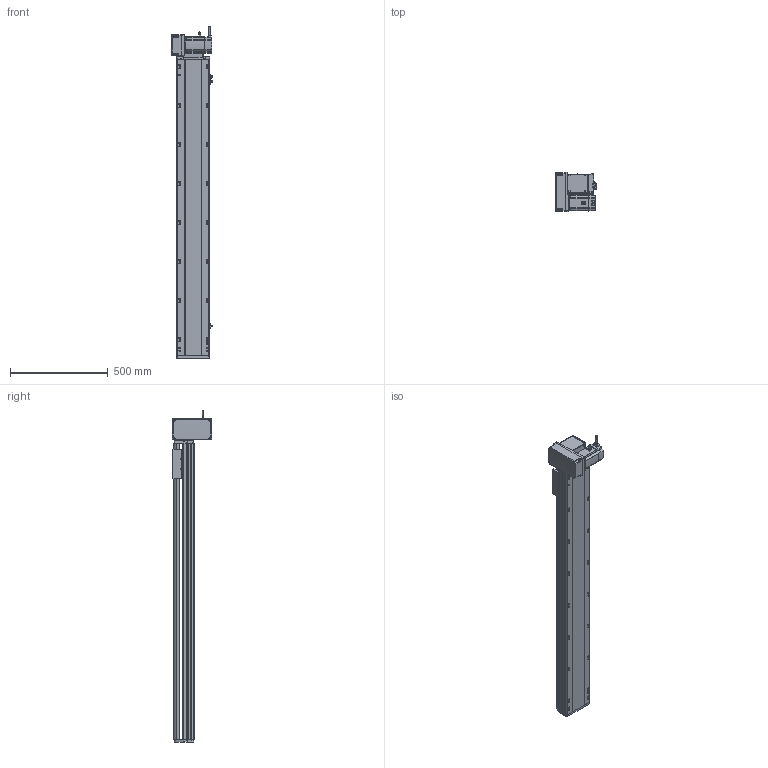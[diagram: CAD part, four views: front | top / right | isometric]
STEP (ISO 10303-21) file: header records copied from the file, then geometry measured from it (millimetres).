
FILE_DESCRIPTION (( 'STEP AP214' ), '1' );
FILE_NAME ('RTB17S-XX-1250-LM-M75-C4.STEP', '2025-12-12T00:40:03', ( '' ), ( '' ), 'SwSTEP 2.0', 'SolidWorks 2018', '' );
FILE_SCHEMA (( 'AUTOMOTIVE_DESIGN' ));
Length unit declared in the file: millimetre
Products named in the file (15): RTB22S-GY-005P^RTB17S-LM-々湍釱蚾饜-750W_RTB17S-XX-XX-LM-M75-C4; RTB22S-GY-008-M75--萇儂啣^RTB17S-LM-々湍釱蚾饜-750W_RTB17S-XX-XX-LM-M75-C4; RTB17S-L-014-T20-P75--々湍釱^RTB17S-LM-々湍釱蚾饜-750W_RTB17S-XX-XX-LM-M75-C4; RTB17S-L-001-耜醱啣^RTB17S-XX-XX-LM-M75-C4; RTB17S-L-007奻裔^RTB17S-XX-XX-LM-M75-C4; EE672^RTB17S-XX-XX-LM-M75-C4; RTB17S-XX-1250-LM-M75-C4; RTB17S-賑釱^RTB17S-XX-XX-LM-M75-C4; RTB17-R-011菁釱^RTB17S-XX-XX-LM-M75-C4; 750W萇儂^RTB17S-XX-XX-LM-M75-C4; RTB22S-GY-018P^RTB17S-LM-々湍釱蚾饜-750W_RTB17S-XX-XX-LM-M75-C4; RTB17S-LM-々湍釱蚾饜-750W^RTB17S-XX-XX-LM-M75-C4; RTH13-BL-012覜茼え俋离^RTB17S-賑釱_RTB17S-XX-XX-LM-M75-C4; RTB17S-L-004-賑釱^RTB17S-賑釱_RTB17S-XX-XX-LM-M75-C4; RTB22S-GY-017P^RTB17S-LM-々湍釱蚾饜-750W_RTB17S-XX-XX-LM-M75-C4
Assembly tree (17 placements, depth 3):
  RTB17S-XX-1250-LM-M75-C4
    RTB17-R-011菁釱^RTB17S-XX-XX-LM-M75-C4
    EE672^RTB17S-XX-XX-LM-M75-C4  x3
    RTB17S-L-001-耜醱啣^RTB17S-XX-XX-LM-M75-C4
    RTB17S-賑釱^RTB17S-XX-XX-LM-M75-C4
      RTB17S-L-004-賑釱^RTB17S-賑釱_RTB17S-XX-XX-LM-M75-C4
      RTH13-BL-012覜茼え俋离^RTB17S-賑釱_RTB17S-XX-XX-LM-M75-C4
    RTB17S-L-007奻裔^RTB17S-XX-XX-LM-M75-C4
    750W萇儂^RTB17S-XX-XX-LM-M75-C4
    RTB17S-LM-々湍釱蚾饜-750W^RTB17S-XX-XX-LM-M75-C4
      RTB17S-L-014-T20-P75--々湍釱^RTB17S-LM-々湍釱蚾饜-750W_RTB17S-XX-XX-LM-M75-C4
      RTB22S-GY-005P^RTB17S-LM-々湍釱蚾饜-750W_RTB17S-XX-XX-LM-M75-C4
      RTB22S-GY-017P^RTB17S-LM-々湍釱蚾饜-750W_RTB17S-XX-XX-LM-M75-C4  x2
      RTB22S-GY-008-M75--萇儂啣^RTB17S-LM-々湍釱蚾饜-750W_RTB17S-XX-XX-LM-M75-C4
      RTB22S-GY-018P^RTB17S-LM-々湍釱蚾饜-750W_RTB17S-XX-XX-LM-M75-C4
Bounding box: 210.4 x 200 x 1702.2 mm (x, y, z)
Volume: 13758686.6 mm3; surface area: 2379800 mm2
Topology: 17 solids, 17 shells, 2121 faces, 5890 edges, 3806 vertices
Faces by surface type: plane 974, cylinder 731, bspline 294, cone 110, sphere 8, torus 4
Entity records: 59638 total; most frequent: CARTESIAN_POINT 17554, ORIENTED_EDGE 8624, DIRECTION 8042, EDGE_CURVE 4312, AXIS2_PLACEMENT_3D 2826, VERTEX_POINT 2810, VECTOR 2390, LINE 2390
